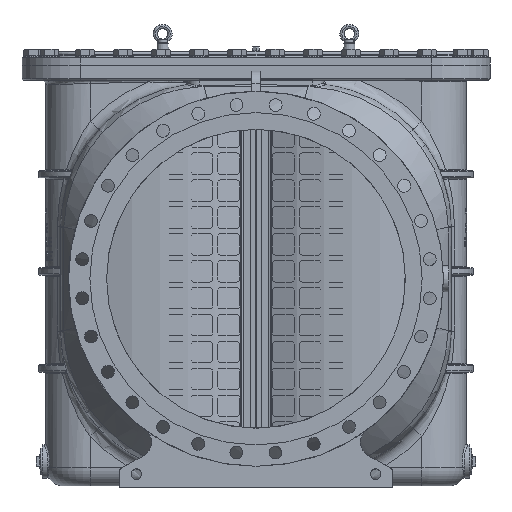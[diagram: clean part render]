
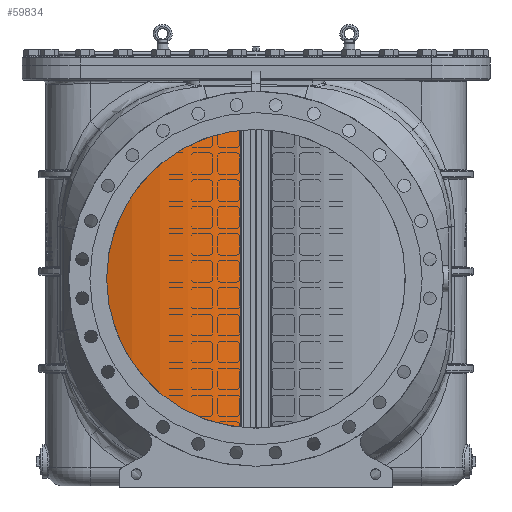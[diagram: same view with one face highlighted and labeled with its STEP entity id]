
A CAD part, front view. The second image highlights one B-rep face of the part: STEP entity #59834.
In plain terms, the highlighted cylindrical face has radius 590 mm (diameter 1180 mm), a partial arc.
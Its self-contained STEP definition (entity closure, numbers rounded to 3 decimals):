
#8797=FACE_OUTER_BOUND('',#12512,.T.);
#12512=EDGE_LOOP('',(#51998,#51999,#52000,#52001));
#16322=LINE('',#122133,#20388);
#16324=LINE('',#122136,#20390);
#20388=VECTOR('',#77173,10.);
#20390=VECTOR('',#77177,10.);
#23529=CIRCLE('',#64867,590.);
#23532=CIRCLE('',#64872,590.);
#28475=VERTEX_POINT('',#122102);
#28476=VERTEX_POINT('',#122104);
#28480=VERTEX_POINT('',#122116);
#28481=VERTEX_POINT('',#122118);
#36509=EDGE_CURVE('',#28476,#28475,#23529,.T.);
#36516=EDGE_CURVE('',#28481,#28480,#23532,.T.);
#36524=EDGE_CURVE('',#28476,#28480,#16322,.T.);
#36526=EDGE_CURVE('',#28481,#28475,#16324,.T.);
#51998=ORIENTED_EDGE('',*,*,#36509,.T.);
#51999=ORIENTED_EDGE('',*,*,#36526,.F.);
#52000=ORIENTED_EDGE('',*,*,#36516,.T.);
#52001=ORIENTED_EDGE('',*,*,#36524,.F.);
#57131=CYLINDRICAL_SURFACE('',#64878,590.);
#59834=ADVANCED_FACE('',(#8797),#57131,.T.);
#64867=AXIS2_PLACEMENT_3D('',#122105,#77144,#77145);
#64872=AXIS2_PLACEMENT_3D('',#122119,#77158,#77159);
#64878=AXIS2_PLACEMENT_3D('',#122135,#77175,#77176);
#77144=DIRECTION('center_axis',(0.,0.,-1.));
#77145=DIRECTION('ref_axis',(0.466,0.885,0.));
#77158=DIRECTION('center_axis',(0.,0.,
1.));
#77159=DIRECTION('ref_axis',(0.466,0.885,0.));
#77173=DIRECTION('',(0.,0.,-1.));
#77175=DIRECTION('center_axis',(0.,0.,1.));
#77176=DIRECTION('ref_axis',(0.466,0.885,0.));
#77177=DIRECTION('',(0.,0.,1.));
#122102=CARTESIAN_POINT('',(271.759,523.686,1364.));
#122104=CARTESIAN_POINT('',(-271.759,523.686,1364.));
#122105=CARTESIAN_POINT('Origin',(0.,0.,1364.));
#122116=CARTESIAN_POINT('',(-271.759,523.686,16.));
#122118=CARTESIAN_POINT('',(271.759,523.686,16.));
#122119=CARTESIAN_POINT('Origin',(0.,0.,16.));
#122133=CARTESIAN_POINT('',(-271.759,523.686,0.));
#122135=CARTESIAN_POINT('Origin',(0.,0.,0.));
#122136=CARTESIAN_POINT('',(271.759,523.686,0.));
